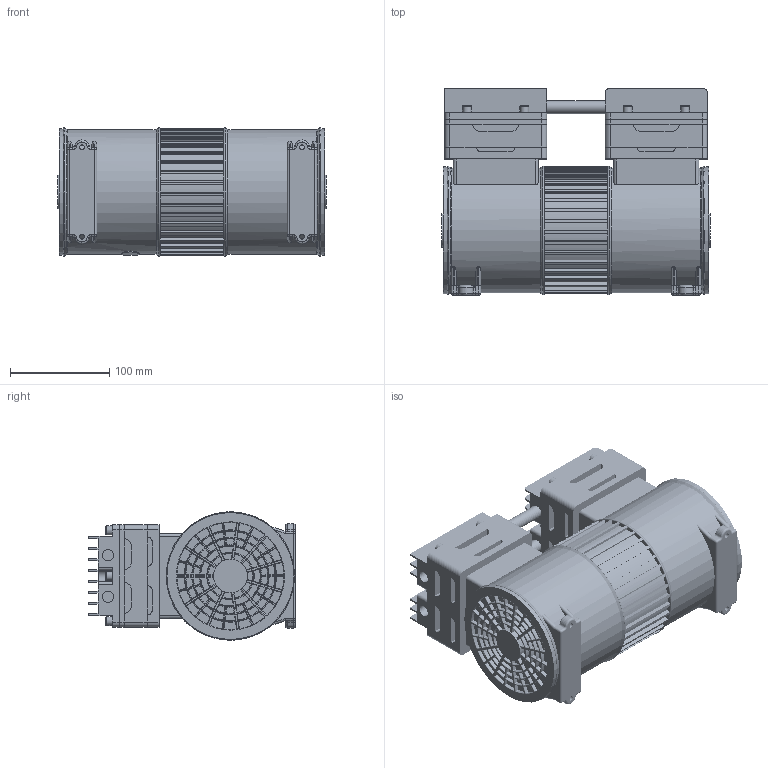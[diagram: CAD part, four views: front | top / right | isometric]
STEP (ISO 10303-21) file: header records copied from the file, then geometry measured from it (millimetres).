
FILE_DESCRIPTION(/* description */ (''),/* implementation_level */ '2;1');
FILE_NAME(/* name */ '',/* time_stamp */ '2025-04-01T09:33:43+03:00',/* author */ ('User'),/* organization */ (''),/* preprocessor_version */ 'ST-DEVELOPER v19.2',/* originating_system */ 'Autodesk Inventor 2024',/* authorisation */ '');
FILE_SCHEMA (('AUTOMOTIVE_DESIGN { 1 0 10303 214 3 1 1 }'));
Products named in the file (1): Вакуумный насос 
750W
Bounding box: 271 x 208.5 x 129.39 mm (x, y, z)
Volume: 4722257.7 mm3; surface area: 352869.7 mm2
Topology: 3 solids, 3 shells, 5129 faces, 12242 edges, 7136 vertices
Faces by surface type: torus 2126, cylinder 2004, plane 978, sphere 8, bspline 8, cone 5
Full cylindrical faces by diameter (mm): 4.917 x4, 9 x12, 11.445 x4, 12.8 x2, 18 x1, 34 x2, 126 x2, 128 x2
Entity records: 154902 total; most frequent: DIRECTION 30086, CARTESIAN_POINT 25640, ORIENTED_EDGE 24484, AXIS2_PLACEMENT_3D 12822, EDGE_CURVE 12242, CIRCLE 7684, VERTEX_POINT 7136, EDGE_LOOP 5510
